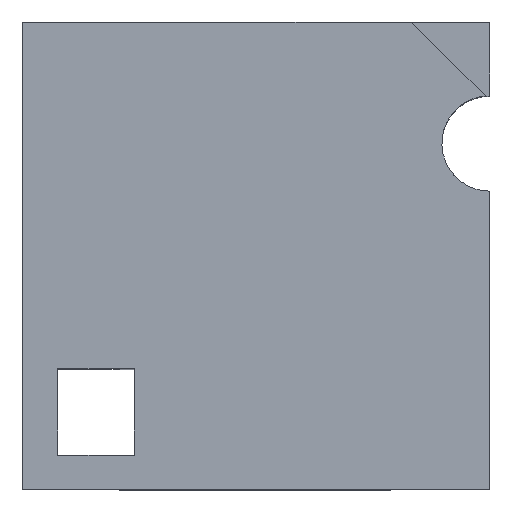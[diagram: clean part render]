
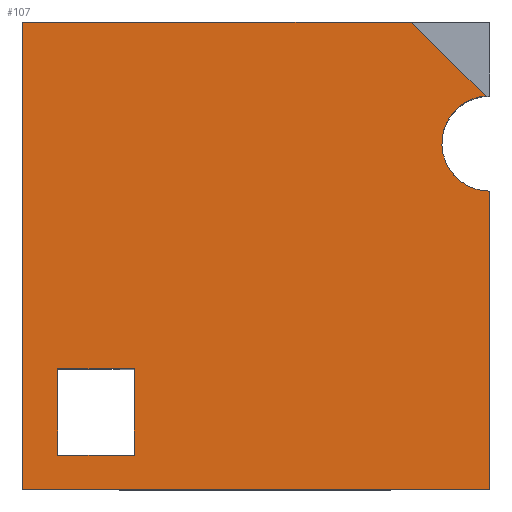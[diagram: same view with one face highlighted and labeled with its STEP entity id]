
A CAD part, top view. The second image highlights one B-rep face of the part: STEP entity #107.
In plain terms, the highlighted planar face has unit normal (0, 0, 1).
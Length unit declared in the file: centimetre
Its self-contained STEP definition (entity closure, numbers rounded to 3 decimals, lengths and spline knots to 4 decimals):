
#7 = CARTESIAN_POINT ( 'NONE',  ( 75.5082, 257.8083, 1000. ) ) ;
#30 = CARTESIAN_POINT ( 'NONE',  ( 0., 1000., 1000. ) ) ;
#44 = AXIS2_PLACEMENT_3D ( 'NONE', #969, #1704, #178 ) ;
#62 = CARTESIAN_POINT ( 'NONE',  ( 75.5082, 72.9509, 1000. ) ) ;
#107 = ADVANCED_FACE ( 'NONE', ( #1924, #1794 ), #1040, .T. ) ;
#178 = DIRECTION ( 'NONE',  ( 1., 0., 0. ) ) ;
#190 = VERTEX_POINT ( 'NONE', #1318 ) ;
#209 = CARTESIAN_POINT ( 'NONE',  ( 1000., 832.3131, 1000. ) ) ;
#251 = CARTESIAN_POINT ( 'NONE',  ( 832.3131, 1000., 1000. ) ) ;
#270 = DIRECTION ( 'NONE',  ( 0., -1., 0. ) ) ;
#271 = VECTOR ( 'NONE', #1285, 100. ) ;
#309 = CARTESIAN_POINT ( 'NONE',  ( 0., 0., 1000. ) ) ;
#372 = ORIENTED_EDGE ( 'NONE', *, *, #1101, .F. ) ;
#406 = VECTOR ( 'NONE', #1250, 100. ) ;
#454 = VERTEX_POINT ( 'NONE', #1928 ) ;
#455 = VECTOR ( 'NONE', #270, 100. ) ;
#456 = VECTOR ( 'NONE', #469, 100. ) ;
#469 = DIRECTION ( 'NONE',  ( 0., 1., 0. ) ) ;
#472 = EDGE_LOOP ( 'NONE', ( #806, #990, #1400, #1772 ) ) ;
#481 = VECTOR ( 'NONE', #744, 100. ) ;
#515 = LINE ( 'NONE', #1700, #406 ) ;
#516 = VECTOR ( 'NONE', #1143, 100. ) ;
#534 = LINE ( 'NONE', #1153, #516 ) ;
#566 = CARTESIAN_POINT ( 'NONE',  ( 990.6005, 841.7125, 1000. ) ) ;
#587 = CARTESIAN_POINT ( 'NONE',  ( 75.5082, 72.9509, 1000. ) ) ;
#595 = EDGE_CURVE ( 'NONE', #1039, #1427, #1689, .T. ) ;
#627 = VERTEX_POINT ( 'NONE', #1063 ) ;
#646 = DIRECTION ( 'NONE',  ( -1., 0., 0. ) ) ;
#671 = LINE ( 'NONE', #30, #1362 ) ;
#690 = VERTEX_POINT ( 'NONE', #1601 ) ;
#694 = EDGE_CURVE ( 'NONE', #801, #190, #1683, .T. ) ;
#733 = ORIENTED_EDGE ( 'NONE', *, *, #1712, .T. ) ;
#744 = DIRECTION ( 'NONE',  ( -1., 0., 0. ) ) ;
#772 = EDGE_CURVE ( 'NONE', #1744, #627, #671, .T. ) ;
#801 = VERTEX_POINT ( 'NONE', #566 ) ;
#806 = ORIENTED_EDGE ( 'NONE', *, *, #1826, .F. ) ;
#833 = VERTEX_POINT ( 'NONE', #1303 ) ;
#844 = ORIENTED_EDGE ( 'NONE', *, *, #772, .T. ) ;
#916 = CARTESIAN_POINT ( 'NONE',  ( 1000., 0., 1000. ) ) ;
#937 = DIRECTION ( 'NONE',  ( 1., 0., 0. ) ) ;
#969 = CARTESIAN_POINT ( 'NONE',  ( 1000., 740.0354, 1000. ) ) ;
#990 = ORIENTED_EDGE ( 'NONE', *, *, #1883, .F. ) ;
#1013 = DIRECTION ( 'NONE',  ( 0., 0., 1. ) ) ;
#1023 = CARTESIAN_POINT ( 'NONE',  ( 0., 0., 1000. ) ) ;
#1028 = LINE ( 'NONE', #1635, #1607 ) ;
#1039 = VERTEX_POINT ( 'NONE', #1378 ) ;
#1040 = PLANE ( 'NONE',  #1077 ) ;
#1063 = CARTESIAN_POINT ( 'NONE',  ( 0., 1000., 1000. ) ) ;
#1077 = AXIS2_PLACEMENT_3D ( 'NONE', #1023, #1013, #1475 ) ;
#1101 = EDGE_CURVE ( 'NONE', #1744, #801, #1113, .T. ) ;
#1113 = LINE ( 'NONE', #209, #271 ) ;
#1141 = VERTEX_POINT ( 'NONE', #62 ) ;
#1143 = DIRECTION ( 'NONE',  ( 0., -1., 0. ) ) ;
#1153 = CARTESIAN_POINT ( 'NONE',  ( 0., 1000., 1000. ) ) ;
#1160 = EDGE_CURVE ( 'NONE', #454, #690, #515, .T. ) ;
#1203 = LINE ( 'NONE', #587, #455 ) ;
#1220 = LINE ( 'NONE', #1831, #456 ) ;
#1250 = DIRECTION ( 'NONE',  ( 0., 1., 0. ) ) ;
#1285 = DIRECTION ( 'NONE',  ( 0.707, -0.707, 0. ) ) ;
#1303 = CARTESIAN_POINT ( 'NONE',  ( 75.5082, 257.8083, 1000. ) ) ;
#1318 = CARTESIAN_POINT ( 'NONE',  ( 1000., 637.9247, 1000. ) ) ;
#1349 = DIRECTION ( 'NONE',  ( 1., 0., 0. ) ) ;
#1362 = VECTOR ( 'NONE', #646, 100. ) ;
#1378 = CARTESIAN_POINT ( 'NONE',  ( 0., 0., 1000. ) ) ;
#1400 = ORIENTED_EDGE ( 'NONE', *, *, #1160, .F. ) ;
#1427 = VERTEX_POINT ( 'NONE', #916 ) ;
#1473 = ORIENTED_EDGE ( 'NONE', *, *, #595, .T. ) ;
#1475 = DIRECTION ( 'NONE',  ( 1., 0., 0. ) ) ;
#1500 = EDGE_LOOP ( 'NONE', ( #1905, #372, #844, #733, #1473, #1707 ) ) ;
#1583 = VECTOR ( 'NONE', #937, 100. ) ;
#1601 = CARTESIAN_POINT ( 'NONE',  ( 239.8501, 257.8083, 1000. ) ) ;
#1607 = VECTOR ( 'NONE', #1349, 100. ) ;
#1635 = CARTESIAN_POINT ( 'NONE',  ( 75.5082, 72.9509, 1000. ) ) ;
#1683 = CIRCLE ( 'NONE', #44, 102.1107 ) ;
#1689 = LINE ( 'NONE', #309, #1583 ) ;
#1700 = CARTESIAN_POINT ( 'NONE',  ( 239.8501, 72.9509, 1000. ) ) ;
#1704 = DIRECTION ( 'NONE',  ( 0., 0., 1. ) ) ;
#1707 = ORIENTED_EDGE ( 'NONE', *, *, #1787, .T. ) ;
#1712 = EDGE_CURVE ( 'NONE', #627, #1039, #534, .T. ) ;
#1744 = VERTEX_POINT ( 'NONE', #251 ) ;
#1771 = EDGE_CURVE ( 'NONE', #1141, #454, #1028, .T. ) ;
#1772 = ORIENTED_EDGE ( 'NONE', *, *, #1771, .F. ) ;
#1787 = EDGE_CURVE ( 'NONE', #1427, #190, #1220, .T. ) ;
#1794 = FACE_BOUND ( 'NONE', #472, .T. ) ;
#1826 = EDGE_CURVE ( 'NONE', #833, #1141, #1203, .T. ) ;
#1831 = CARTESIAN_POINT ( 'NONE',  ( 1000., 1000., 1000. ) ) ;
#1883 = EDGE_CURVE ( 'NONE', #690, #833, #1964, .T. ) ;
#1905 = ORIENTED_EDGE ( 'NONE', *, *, #694, .F. ) ;
#1924 = FACE_OUTER_BOUND ( 'NONE', #1500, .T. ) ;
#1928 = CARTESIAN_POINT ( 'NONE',  ( 239.8501, 72.9509, 1000. ) ) ;
#1964 = LINE ( 'NONE', #7, #481 ) ;
